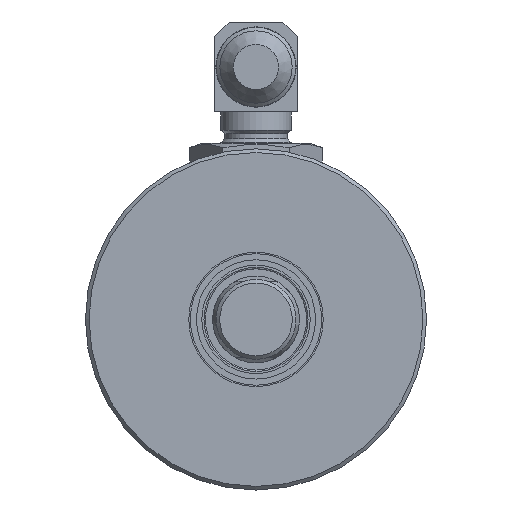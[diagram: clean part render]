
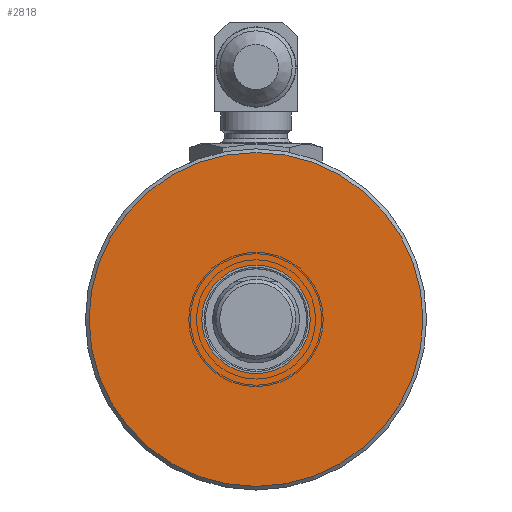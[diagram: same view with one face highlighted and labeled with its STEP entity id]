
A CAD part, left-side view. The second image highlights one B-rep face of the part: STEP entity #2818.
In plain terms, the highlighted planar face has unit normal (-1, 0, 0).
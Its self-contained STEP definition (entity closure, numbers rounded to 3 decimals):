
#129=FACE_BOUND('',#525,.T.);
#192=PLANE('',#3110);
#324=FACE_OUTER_BOUND('',#524,.T.);
#524=EDGE_LOOP('',(#2097));
#525=EDGE_LOOP('',(#2098));
#1048=CIRCLE('',#3111,23.1);
#1049=CIRCLE('',#3112,7.5);
#1247=VERTEX_POINT('',#4639);
#1248=VERTEX_POINT('',#4641);
#1548=EDGE_CURVE('',#1247,#1247,#1048,.T.);
#1549=EDGE_CURVE('',#1248,#1248,#1049,.T.);
#2097=ORIENTED_EDGE('',*,*,#1548,.F.);
#2098=ORIENTED_EDGE('',*,*,#1549,.T.);
#2818=ADVANCED_FACE('',(#324,#129),#192,.F.);
#3110=AXIS2_PLACEMENT_3D('',#4638,#3722,#3723);
#3111=AXIS2_PLACEMENT_3D('',#4640,#3724,#3725);
#3112=AXIS2_PLACEMENT_3D('',#4642,#3726,#3727);
#3722=DIRECTION('center_axis',(1.,0.,0.));
#3723=DIRECTION('ref_axis',(0.,0.,1.));
#3724=DIRECTION('center_axis',(1.,0.,0.));
#3725=DIRECTION('ref_axis',(0.,1.,0.));
#3726=DIRECTION('center_axis',(1.,0.,0.));
#3727=DIRECTION('ref_axis',(0.,0.,-1.));
#4638=CARTESIAN_POINT('Origin',(-209.,0.,0.));
#4639=CARTESIAN_POINT('',(-209.,-23.1,0.));
#4640=CARTESIAN_POINT('Origin',(-209.,0.,0.));
#4641=CARTESIAN_POINT('',(-209.,0.,7.5));
#4642=CARTESIAN_POINT('Origin',(-209.,0.,0.));
